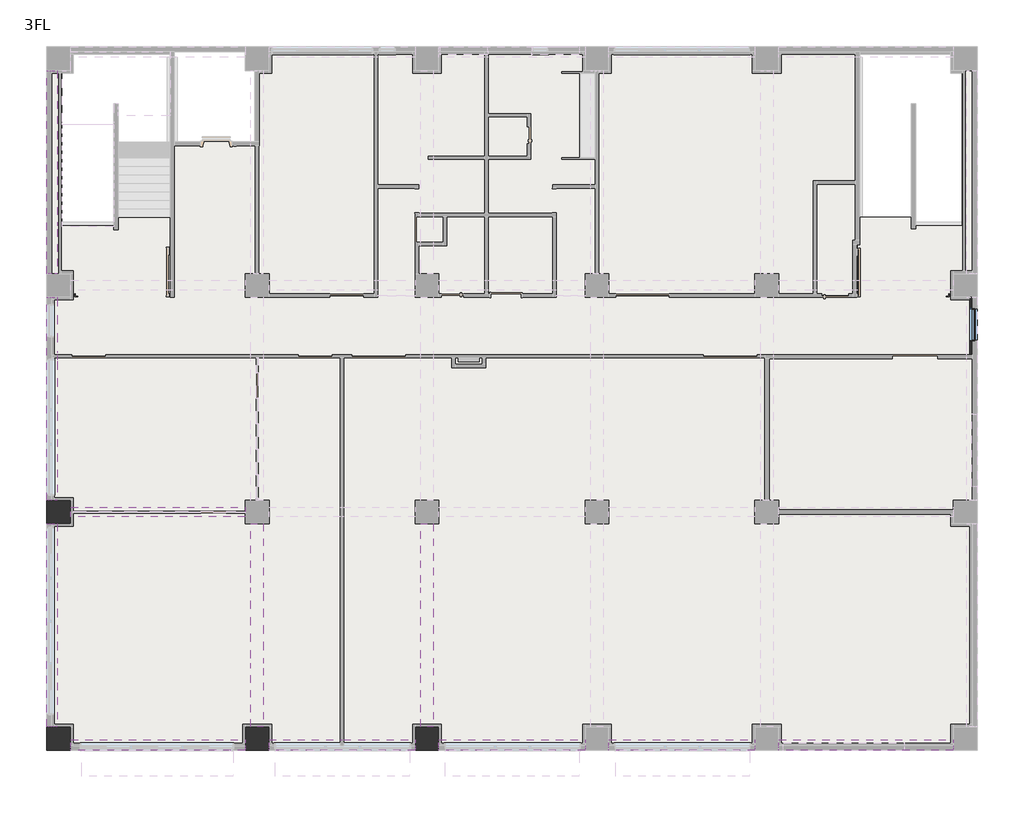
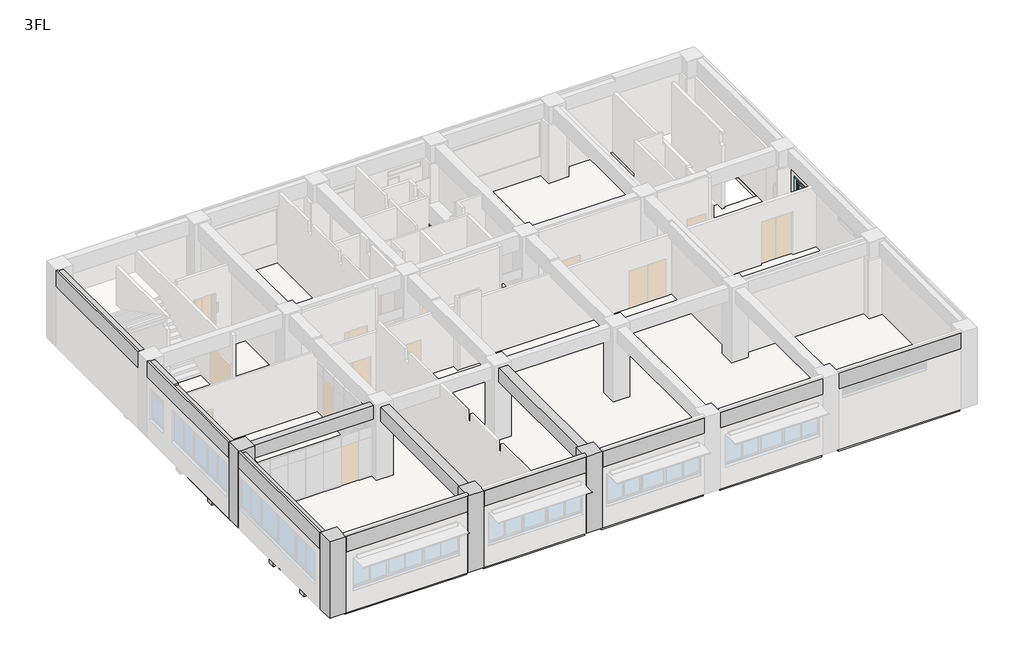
# One storey, part 4 of 6: 16 beams, 4 columns, 4 slabs, 1 wall, 1 window.
"""IFC4 building model written with IfcOpenShell, lengths in millimetres."""

from ifc_helpers import new_model, si_unit, frame, origin, place, context, project, spatial, polyline, outline, extrude, faceted_brep, transform, mapped, element, save
from components import aw6a_3e550bbd

model = new_model("IFC4")

# Units and contexts
model_context = context("Model", 3, world=origin())
ifc_project = project(units=[si_unit("LENGTHUNIT", "METRE", prefix="MILLI")], contexts=[model_context])

# Site, building, storey
site = spatial("IfcSite", under=ifc_project)
building = spatial("IfcBuilding", under=site)
storey = spatial("IfcBuildingStorey", under=building, Name="3FL", Elevation=8200.0)

# Beams
placement = place(None, origin())
element("IfcBeam", 1, ObjectType="営_RC梁 : 2-RG1 350*850", at=placement, inside=storey, context=model_context, shape_type="Brep", body=[
    faceted_brep([(6580.0, -420.0, 11350.0), (6580.0, -420.0, 12200.0), (420.0, -420.0, 12200.0), (420.0, -420.0, 11350.0), (6580.0, -50.0, 11350.0), (6580.0, -250.0, 11350.0), (420.0, -250.0, 11350.0), (420.0, -50.0, 11350.0), (420.0, -50.0, 12050.0), (6580.0, -50.0, 12050.0), (6580.0, -325.0, 12200.0), (420.0, -325.0, 12200.0), (6580.0, -325.0, 12050.0), (420.0, -325.0, 12050.0)], [[[0, 1, 2, 3]], [[4, 5, 0, 3, 6, 7]], [[4, 7, 8, 9]], [[2, 1, 10, 11]], [[1, 0, 5, 4, 9, 12, 10]], [[3, 2, 11, 13, 8, 7, 6]], [[13, 12, 9, 8]], [[12, 13, 11, 10]]]),
])
element("IfcBeam", 2, ObjectType="営_RC梁 : 2-RG1 350*850", at=placement, inside=storey, context=model_context, shape_type="Brep", body=[
    faceted_brep([(7420.0, -420.0, 12200.0), (7420.0, -420.0, 11350.0), (12580.0, -420.0, 11350.0), (12580.0, -420.0, 12200.0), (7420.0, -250.0, 11350.0), (7420.0, -50.0, 11350.0), (9940.0, -50.0, 11350.0), (10060.0, -50.0, 11350.0), (12580.0, -50.0, 11350.0), (12580.0, -250.0, 11350.0), (7420.0, -50.0, 12050.0), (9940.0, -50.0, 12050.0), (10060.0, -50.0, 12050.0), (12580.0, -50.0, 12050.0), (12580.0, -325.0, 12200.0), (7420.0, -325.0, 12200.0), (7420.0, -325.0, 12050.0), (12580.0, -325.0, 12050.0)], [[[0, 1, 2, 3]], [[1, 4, 5, 6, 7, 8, 9, 2]], [[8, 7, 6, 5, 10, 11, 12, 13]], [[0, 3, 14, 15]], [[1, 0, 15, 16, 10, 5, 4]], [[3, 2, 9, 8, 13, 17, 14]], [[16, 17, 13, 12, 11, 10]], [[17, 16, 15, 14]]]),
])
element("IfcBeam", 3, ObjectType="営_RC梁 : 2-RG1 350*850", at=placement, inside=storey, context=model_context, shape_type="Brep", body=[
    faceted_brep([(13420.0, -420.0, 12200.0), (13420.0, -420.0, 11350.0), (18580.0, -420.0, 11350.0), (18580.0, -420.0, 12200.0), (13420.0, -250.0, 11350.0), (13420.0, -50.0, 11350.0), (18580.0, -50.0, 11350.0), (18580.0, -250.0, 11350.0), (13420.0, -50.0, 12050.0), (18580.0, -50.0, 12050.0), (18580.0, -325.0, 12200.0), (13420.0, -325.0, 12200.0), (13420.0, -325.0, 12050.0), (18580.0, -325.0, 12050.0)], [[[0, 1, 2, 3]], [[1, 4, 5, 6, 7, 2]], [[6, 5, 8, 9]], [[0, 3, 10, 11]], [[1, 0, 11, 12, 8, 5, 4]], [[3, 2, 7, 6, 9, 13, 10]], [[12, 13, 9, 8]], [[13, 12, 11, 10]]]),
])
element("IfcBeam", 4, ObjectType="営_RC梁 : 2-RG1 350*850", at=placement, inside=storey, context=model_context, shape_type="Brep", body=[
    faceted_brep([(19420.0, -420.0, 12200.0), (19420.0, -420.0, 11350.0), (24580.0, -420.0, 11350.0), (24580.0, -420.0, 12200.0), (19420.0, -250.0, 11350.0), (19420.0, -50.0, 11350.0), (24580.0, -50.0, 11350.0), (24580.0, -250.0, 11350.0), (19420.0, -50.0, 12050.0), (24580.0, -50.0, 12050.0), (24580.0, -325.0, 12200.0), (19420.0, -325.0, 12200.0), (19420.0, -325.0, 12050.0), (24580.0, -325.0, 12050.0)], [[[0, 1, 2, 3]], [[1, 4, 5, 6, 7, 2]], [[6, 5, 8, 9]], [[0, 3, 10, 11]], [[1, 0, 11, 12, 8, 5, 4]], [[3, 2, 7, 6, 9, 13, 10]], [[12, 13, 9, 8]], [[13, 12, 11, 10]]]),
])
element("IfcBeam", 5, ObjectType="営_RC梁 : 2-RG1 350*850", at=placement, inside=storey, context=model_context, shape_type="Brep", body=[
    faceted_brep([(25420.0, -420.0, 12200.0), (25420.0, -420.0, 11350.0), (31580.0, -420.0, 11350.0), (31580.0, -420.0, 12200.0), (25420.0, -250.0, 11350.0), (25420.0, -50.0, 11350.0), (31580.0, -50.0, 11350.0), (31580.0, -250.0, 11350.0), (25420.0, -50.0, 12050.0), (31580.0, -50.0, 12050.0), (31580.0, -325.0, 12200.0), (25420.0, -325.0, 12200.0), (25420.0, -325.0, 12050.0), (31580.0, -325.0, 12050.0)], [[[0, 1, 2, 3]], [[1, 4, 5, 6, 7, 2]], [[6, 5, 8, 9]], [[0, 3, 10, 11]], [[1, 0, 11, 12, 8, 5, 4]], [[3, 2, 7, 6, 9, 13, 10]], [[12, 13, 9, 8]], [[13, 12, 11, 10]]]),
])
element("IfcBeam", 6, ObjectType="営_RC梁 : 2-RG11 350*900", at=placement, inside=storey, context=model_context, shape_type="Brep", body=[
    faceted_brep([(-50.0, 420.0, 11300.0), (-50.0, 7580.0, 11300.0), (-50.0, 7580.0, 12050.0), (-50.0, 5505.0, 12050.0), (-50.0, 5155.0, 12050.0), (-50.0, 2835.0, 12050.0), (-50.0, 2485.0, 12050.0), (-50.0, 420.0, 12050.0), (-420.0, 7580.0, 11300.0), (-250.0, 7580.0, 11300.0), (-160.0, 420.0, 11300.0), (-250.0, 420.0, 11300.0), (-420.0, 420.0, 11300.0), (-420.0, 7580.0, 12200.0), (-420.0, 420.0, 12200.0), (-335.0, 420.0, 12200.0), (-335.0, 7580.0, 12200.0), (-335.0, 7580.0, 12050.0), (-335.0, 420.0, 12050.0)], [[[0, 1, 2, 3, 4, 5, 6, 7]], [[8, 9, 1, 0, 10, 11, 12]], [[13, 8, 12, 14]], [[13, 14, 15, 16]], [[1, 9, 8, 13, 16, 17, 2]], [[12, 11, 10, 0, 7, 18, 15, 14]], [[17, 18, 7, 6, 5, 4, 3, 2]], [[18, 17, 16, 15]]]),
])
element("IfcBeam", 7, ObjectType="営_RC梁 : 2-RG11 350*900", at=placement, inside=storey, context=model_context, shape_type="Brep", body=[
    faceted_brep([(-50.0, 8420.0, 11300.0), (-50.0, 13440.0, 11300.0), (-50.0, 13560.0, 11300.0), (-50.0, 15580.0, 11300.0), (-50.0, 15580.0, 12140.0), (-50.0, 13675.0, 12140.0), (-50.0, 13500.0, 12140.0), (-50.0, 13500.0, 12050.0), (-50.0, 13325.0, 12050.0), (-50.0, 10925.0, 12050.0), (-50.0, 10575.0, 12050.0), (-50.0, 8420.0, 12050.0), (-250.0, 8420.0, 11300.0), (-420.0, 8420.0, 11300.0), (-420.0, 15580.0, 11300.0), (-250.0, 15580.0, 11300.0), (-420.0, 8420.0, 12200.0), (-420.0, 15580.0, 12200.0), (-335.0, 8420.0, 12200.0), (-335.0, 13500.0, 12200.0), (-325.0, 13500.0, 12200.0), (-325.0, 15580.0, 12200.0), (-335.0, 8420.0, 12050.0), (-325.0, 15580.0, 12140.0), (-335.0, 13500.0, 12050.0), (-325.0, 13500.0, 12140.0)], [[[0, 1, 2, 3, 4, 5, 6, 7, 8, 9, 10, 11]], [[0, 12, 13, 14, 15, 3, 2, 1]], [[13, 16, 17, 14]], [[17, 16, 18, 19, 20, 21]], [[13, 12, 0, 11, 22, 18, 16]], [[3, 15, 14, 17, 21, 23, 4]], [[7, 24, 22, 11, 10, 9, 8]], [[24, 19, 18, 22]], [[19, 24, 7, 6, 25, 20]], [[23, 25, 6, 5, 4]], [[25, 23, 21, 20]]]),
])
element("IfcBeam", 8, ObjectType="営_RC梁 : 2-RG11 350*900", at=placement, inside=storey, context=model_context, shape_type="Brep", body=[
    faceted_brep([(-50.0, 16420.0, 11300.0), (-50.0, 23580.0, 11300.0), (-50.0, 23580.0, 12140.0), (-50.0, 18225.0, 12140.0), (-50.0, 17975.0, 12140.0), (-50.0, 16420.0, 12140.0), (-250.0, 16420.0, 11300.0), (-420.0, 16420.0, 11300.0), (-420.0, 23580.0, 11300.0), (-250.0, 23580.0, 11300.0), (-420.0, 16420.0, 12200.0), (-420.0, 23580.0, 12200.0), (-325.0, 16420.0, 12200.0), (-325.0, 23580.0, 12200.0), (-325.0, 16420.0, 12140.0), (-325.0, 23580.0, 12140.0)], [[[0, 1, 2, 3, 4, 5]], [[0, 6, 7, 8, 9, 1]], [[7, 10, 11, 8]], [[11, 10, 12, 13]], [[7, 6, 0, 5, 14, 12, 10]], [[1, 9, 8, 11, 13, 15, 2]], [[15, 14, 5, 4, 3, 2]], [[14, 15, 13, 12]]]),
])
element("IfcBeam", 9, ObjectType="営_RC梁 : 2-RG2 350*850", at=placement, inside=storey, context=model_context, shape_type="SweptSolid", body=[
    extrude(outline(polyline([(6580.0, 8175.0), (6580.0, 7825.0), (420.0, 7825.0), (420.0, 8175.0), (6580.0, 8175.0)])), frame((0.0, 0.0, 11350.0), z_axis=(0.0, 0.0, 1.0), x_axis=(1.0, 0.0, 0.0)), (0.0, 0.0, 1.0), 700.0),
])
element("IfcBeam", 10, ObjectType="営_RC梁 : 2-4G12 450*900", at=placement, inside=storey, context=model_context, shape_type="Brep", body=[
    faceted_brep([(7225.0, 420.0, 11300.0), (7225.0, 7580.0, 11300.0), (7225.0, 7580.0, 12050.0), (7225.0, 5505.0, 12050.0), (7225.0, 5155.0, 12050.0), (7225.0, 2835.0, 12050.0), (7225.0, 2485.0, 12050.0), (7225.0, 420.0, 12050.0), (6775.0, 420.0, 11300.0), (6775.0, 7580.0, 11300.0), (6775.0, 420.0, 12050.0), (6775.0, 2485.0, 12050.0), (6775.0, 2835.0, 12050.0), (6775.0, 5155.0, 12050.0), (6775.0, 5505.0, 12050.0), (6775.0, 7580.0, 12050.0)], [[[0, 1, 2, 3, 4, 5, 6, 7]], [[0, 8, 9, 1]], [[9, 8, 10, 11, 12, 13, 14, 15]], [[8, 0, 7, 10]], [[1, 9, 15, 2]], [[7, 6, 5, 4, 3, 2, 15, 14, 13, 12, 11, 10]]]),
])
element("IfcBeam", 11, ObjectType="営_RC梁 : 2-4G12 450*900", at=placement, inside=storey, context=model_context, shape_type="Brep", body=[
    faceted_brep([(13225.0, 420.0, 11300.0), (13225.0, 7580.0, 11300.0), (13225.0, 7580.0, 12050.0), (13225.0, 5505.0, 12050.0), (13225.0, 5155.0, 12050.0), (13225.0, 2835.0, 12050.0), (13225.0, 2485.0, 12050.0), (13225.0, 420.0, 12050.0), (12775.0, 420.0, 11300.0), (12775.0, 7580.0, 11300.0), (12775.0, 420.0, 12050.0), (12775.0, 2485.0, 12050.0), (12775.0, 2835.0, 12050.0), (12775.0, 5155.0, 12050.0), (12775.0, 5505.0, 12050.0), (12775.0, 7580.0, 12050.0)], [[[0, 1, 2, 3, 4, 5, 6, 7]], [[0, 8, 9, 1]], [[9, 8, 10, 11, 12, 13, 14, 15]], [[8, 0, 7, 10]], [[1, 9, 15, 2]], [[7, 6, 5, 4, 3, 2, 15, 14, 13, 12, 11, 10]]]),
])
element("IfcBeam", 12, ObjectType="営_RC梁 : B2 350*750", at=placement, inside=storey, context=model_context, shape_type="SweptSolid", body=[
    extrude(outline(polyline([(7225.0, 5155.0), (7225.0, 5505.0), (12775.0, 5505.0), (12775.0, 5155.0), (7225.0, 5155.0)])), frame((0.0, 0.0, 7350.0), z_axis=(0.0, 0.0, 1.0), x_axis=(1.0, 0.0, 0.0)), (0.0, 0.0, 1.0), 600.0),
])
element("IfcBeam", 13, ObjectType="営_RC梁 : B2 350*750", at=placement, inside=storey, context=model_context, shape_type="SweptSolid", body=[
    extrude(outline(polyline([(7225.0, 2485.0), (7225.0, 2835.0), (12775.0, 2835.0), (12775.0, 2485.0), (7225.0, 2485.0)])), frame((0.0, 0.0, 7350.0), z_axis=(0.0, 0.0, 1.0), x_axis=(1.0, 0.0, 0.0)), (0.0, 0.0, 1.0), 600.0),
])
element("IfcBeam", 14, ObjectType="営_RC梁 : B1 350*750", at=placement, inside=storey, context=model_context, shape_type="SweptSolid", body=[
    extrude(outline(polyline([(6775.0, 5505.0), (6775.0, 5155.0), (-50.0, 5155.0), (-50.0, 5505.0), (6775.0, 5505.0)])), frame((0.0, 0.0, 7350.0), z_axis=(0.0, 0.0, 1.0), x_axis=(1.0, 0.0, 0.0)), (0.0, 0.0, 1.0), 600.0),
])
element("IfcBeam", 15, ObjectType="営_RC梁 : B1 350*750", at=placement, inside=storey, context=model_context, shape_type="SweptSolid", body=[
    extrude(outline(polyline([(6775.0, 2835.0), (6775.0, 2485.0), (-50.0, 2485.0), (-50.0, 2835.0), (6775.0, 2835.0)])), frame((0.0, 0.0, 7350.0), z_axis=(0.0, 0.0, 1.0), x_axis=(1.0, 0.0, 0.0)), (0.0, 0.0, 1.0), 600.0),
])
element("IfcBeam", 16, ObjectType="営_RC梁 : B1 350*750", at=placement, inside=storey, context=model_context, shape_type="SweptSolid", body=[
    extrude(outline(polyline([(-50.0, 10575.0), (-50.0, 10925.0), (6775.0, 10925.0), (6775.0, 10575.0), (-50.0, 10575.0)])), frame((0.0, 0.0, 7350.0), z_axis=(0.0, 0.0, 1.0), x_axis=(1.0, 0.0, 0.0)), (0.0, 0.0, 1.0), 600.0),
])

# Columns
element("IfcColumn", 17, ObjectType="営_RC柱_角 : 800*800", at=placement, inside=storey, context=model_context, shape_type="Brep", body=[
    faceted_brep([(7420.0, 420.0, 8100.0), (7420.0, -250.0, 8100.0), (7420.0, -420.0, 8100.0), (6580.0, -420.0, 8100.0), (6580.0, -250.0, 8100.0), (6580.0, 420.0, 8100.0), (7420.0, 420.0, 12200.0), (7420.0, -325.0, 12200.0), (7420.0, -420.0, 12200.0), (7420.0, -420.0, 11350.0), (7420.0, 420.0, 8180.0), (7420.0, 420.0, 8190.0), (7420.0, 420.0, 12050.0), (7395.0, -420.0, 12200.0), (6605.0, -420.0, 12200.0), (6580.0, -420.0, 12200.0), (6580.0, -420.0, 11350.0), (6580.0, -325.0, 12200.0), (6580.0, 420.0, 12200.0), (6580.0, 420.0, 12050.0), (6580.0, 420.0, 8190.0), (6580.0, 420.0, 8180.0)], [[[0, 1, 2, 3, 4, 5]], [[6, 7, 8, 9, 2, 1, 0, 10, 11, 12]], [[8, 13, 14, 15, 16, 3, 2, 9]], [[15, 17, 18, 19, 20, 21, 5, 4, 3, 16]], [[18, 6, 12, 11, 10, 0, 5, 21, 20, 19]], [[6, 18, 17, 15, 14, 13, 8, 7]]]),
])
element("IfcColumn", 18, ObjectType="営_RC柱_角 : 800*800", at=placement, inside=storey, context=model_context, shape_type="Brep", body=[
    faceted_brep([(13420.0, 420.0, 8100.0), (13420.0, -250.0, 8100.0), (13420.0, -420.0, 8100.0), (12580.0, -420.0, 8100.0), (12580.0, -250.0, 8100.0), (12580.0, 420.0, 8100.0), (13420.0, 420.0, 12200.0), (13420.0, -325.0, 12200.0), (13420.0, -420.0, 12200.0), (13420.0, -420.0, 11350.0), (13420.0, 420.0, 8180.0), (13420.0, 420.0, 8190.0), (13420.0, 420.0, 12050.0), (13395.0, -420.0, 12200.0), (12605.0, -420.0, 12200.0), (12580.0, -420.0, 12200.0), (12580.0, -420.0, 11350.0), (12580.0, -325.0, 12200.0), (12580.0, 420.0, 12200.0), (12580.0, 420.0, 12050.0), (12580.0, 420.0, 8190.0), (12580.0, 420.0, 8180.0)], [[[0, 1, 2, 3, 4, 5]], [[6, 7, 8, 9, 2, 1, 0, 10, 11, 12]], [[8, 13, 14, 15, 16, 3, 2, 9]], [[15, 17, 18, 19, 20, 21, 5, 4, 3, 16]], [[18, 6, 12, 11, 10, 0, 5, 21, 20, 19]], [[6, 18, 17, 15, 14, 13, 8, 7]]]),
])
element("IfcColumn", 19, ObjectType="営_RC柱_角 : 800*800", at=placement, inside=storey, context=model_context, shape_type="Brep", body=[
    faceted_brep([(420.0, 420.0, 8100.0), (420.0, -250.0, 8100.0), (420.0, -420.0, 8100.0), (-420.0, -420.0, 8100.0), (-420.0, 420.0, 8100.0), (-250.0, 420.0, 8100.0), (420.0, 420.0, 12200.0), (420.0, -325.0, 12200.0), (420.0, -420.0, 12200.0), (420.0, -420.0, 11350.0), (420.0, 420.0, 8180.0), (420.0, 420.0, 8190.0), (420.0, 420.0, 12050.0), (370.0, -420.0, 12200.0), (-420.0, -420.0, 12200.0), (-420.0, 370.0, 12200.0), (-420.0, 420.0, 12200.0), (-420.0, 420.0, 11300.0), (-335.0, 420.0, 12200.0)], [[[0, 1, 2, 3, 4, 5]], [[6, 7, 8, 9, 2, 1, 0, 10, 11, 12]], [[8, 13, 14, 3, 2, 9]], [[14, 15, 16, 17, 4, 3]], [[16, 18, 6, 12, 11, 10, 0, 5, 4, 17]], [[6, 18, 16, 15, 14, 13, 8, 7]]]),
])
element("IfcColumn", 20, ObjectType="営_RC柱_角 : 800*800", at=placement, inside=storey, context=model_context, shape_type="Brep", body=[
    faceted_brep([(420.0, 8420.0, 8100.0), (420.0, 7580.0, 8100.0), (-250.0, 7580.0, 8100.0), (-420.0, 7580.0, 8100.0), (-420.0, 8420.0, 8100.0), (-250.0, 8420.0, 8100.0), (420.0, 8420.0, 12200.0), (420.0, 7580.0, 12200.0), (420.0, 7580.0, 12050.0), (420.0, 7580.0, 8190.0), (420.0, 7580.0, 8180.0), (420.0, 8420.0, 8180.0), (420.0, 8420.0, 8190.0), (420.0, 8420.0, 12050.0), (-335.0, 7580.0, 12200.0), (-420.0, 7580.0, 12200.0), (-420.0, 7580.0, 11300.0), (-420.0, 7605.0, 12200.0), (-420.0, 8395.0, 12200.0), (-420.0, 8420.0, 12200.0), (-420.0, 8420.0, 11300.0), (-335.0, 8420.0, 12200.0)], [[[0, 1, 2, 3, 4, 5]], [[6, 7, 8, 9, 10, 1, 0, 11, 12, 13]], [[7, 14, 15, 16, 3, 2, 1, 10, 9, 8]], [[15, 17, 18, 19, 20, 4, 3, 16]], [[19, 21, 6, 13, 12, 11, 0, 5, 4, 20]], [[6, 21, 19, 18, 17, 15, 14, 7]]]),
])

# Slabs
element("IfcSlab", 21, ObjectType="(内床)仕上げ", at=placement, inside=storey, context=model_context, shape_type="SweptSolid", body=[
    extrude(outline(polyline([(-250.0, 13500.0), (25000.0, 13500.0), (25000.0, 8420.0), (24580.0, 8420.0), (24580.0, 7580.0), (25420.0, 7580.0), (25420.0, 8000.0), (31580.0, 8000.0), (31580.0, 7580.0), (32250.0, 7580.0), (32250.0, 420.0), (31580.0, 420.0), (31580.0, -250.0), (25420.0, -250.0), (25420.0, 420.0), (24580.0, 420.0), (24580.0, -250.0), (19420.0, -250.0), (19420.0, 420.0), (18580.0, 420.0), (18580.0, -250.0), (13420.0, -250.0), (13420.0, 420.0), (12580.0, 420.0), (12580.0, -250.0), (7420.0, -250.0), (7420.0, 420.0), (6580.0, 420.0), (6580.0, -250.0), (420.0, -250.0), (420.0, 420.0), (-250.0, 420.0), (-250.0, 7580.0), (420.0, 7580.0), (420.0, 8420.0), (-250.0, 8420.0), (-250.0, 13500.0)]), holes=[polyline([(7420.0, 7580.0), (7420.0, 8420.0), (6580.0, 8420.0), (6580.0, 7580.0), (7420.0, 7580.0)]), polyline([(13420.0, 7580.0), (13420.0, 8420.0), (12580.0, 8420.0), (12580.0, 7580.0), (13420.0, 7580.0)]), polyline([(19420.0, 7580.0), (19420.0, 8420.0), (18580.0, 8420.0), (18580.0, 7580.0), (19420.0, 7580.0)])]), frame((0.0, 0.0, 8180.0), z_axis=(0.0, 0.0, 1.0), x_axis=(1.0, 0.0, 0.0)), (0.0, 0.0, 1.0), 10.0),
    extrude(outline(polyline([(11200.0, 24250.0), (11200.0, 15640.0), (7420.0, 15640.0), (7420.0, 16420.0), (7000.0, 16420.0), (7000.0, 23580.0), (7420.0, 23580.0), (7420.0, 24250.0), (11200.0, 24250.0)])), frame((0.0, 0.0, 8180.0), z_axis=(0.0, 0.0, 1.0), x_axis=(1.0, 0.0, 0.0)), (0.0, 0.0, 1.0), 10.0),
    extrude(outline(polyline([(28200.0, 24250.0), (28200.0, 19635.0), (26700.0, 19635.0), (26700.0, 15640.0), (25420.0, 15640.0), (25420.0, 16420.0), (24580.0, 16420.0), (24580.0, 15640.0), (19420.0, 15640.0), (19420.0, 16420.0), (19000.0, 16420.0), (19000.0, 23580.0), (19420.0, 23580.0), (19420.0, 24250.0), (24580.0, 24250.0), (24580.0, 23580.0), (25420.0, 23580.0), (25420.0, 24250.0), (28200.0, 24250.0)])), frame((0.0, 0.0, 8180.0), z_axis=(0.0, 0.0, 1.0), x_axis=(1.0, 0.0, 0.0)), (0.0, 0.0, 1.0), 10.0),
])
element("IfcSlab", 22, ObjectType="(RC)150", at=placement, inside=storey, context=model_context, shape_type="Brep", body=[
    faceted_brep([(-335.0, 13500.0, 7950.0), (-50.0, 13500.0, 7950.0), (6775.0, 13500.0, 7950.0), (7225.0, 13500.0, 7950.0), (12775.0, 13500.0, 7950.0), (13225.0, 13500.0, 7950.0), (18775.0, 13500.0, 7950.0), (19225.0, 13500.0, 7950.0), (24775.0, 13500.0, 7950.0), (25000.0, 13500.0, 7950.0), (25000.0, 8420.0, 7950.0), (24775.0, 8420.0, 7950.0), (24580.0, 8420.0, 7950.0), (24580.0, 8175.0, 7950.0), (24580.0, 7825.0, 7950.0), (24580.0, 7580.0, 7950.0), (24775.0, 7580.0, 7950.0), (25225.0, 7580.0, 7950.0), (25420.0, 7580.0, 7950.0), (25420.0, 7825.0, 7950.0), (25420.0, 8000.0, 7950.0), (31580.0, 8000.0, 7950.0), (31580.0, 7825.0, 7950.0), (31580.0, 7580.0, 7950.0), (32050.0, 7580.0, 7950.0), (32325.0, 7580.0, 7950.0), (32325.0, 420.0, 7950.0), (32050.0, 420.0, 7950.0), (31580.0, 420.0, 7950.0), (31580.0, -50.0, 7950.0), (31580.0, -325.0, 7950.0), (25420.0, -325.0, 7950.0), (25420.0, -50.0, 7950.0), (25420.0, 420.0, 7950.0), (25225.0, 420.0, 7950.0), (24775.0, 420.0, 7950.0), (24580.0, 420.0, 7950.0), (24580.0, -50.0, 7950.0), (24580.0, -325.0, 7950.0), (19420.0, -325.0, 7950.0), (19420.0, -50.0, 7950.0), (19420.0, 420.0, 7950.0), (19225.0, 420.0, 7950.0), (18775.0, 420.0, 7950.0), (18580.0, 420.0, 7950.0), (18580.0, -50.0, 7950.0), (18580.0, -325.0, 7950.0), (13420.0, -325.0, 7950.0), (13420.0, -50.0, 7950.0), (13420.0, 420.0, 7950.0), (13225.0, 420.0, 7950.0), (12775.0, 420.0, 7950.0), (12580.0, 420.0, 7950.0), (12580.0, -50.0, 7950.0), (12580.0, -325.0, 7950.0), (7420.0, -325.0, 7950.0), (7420.0, -50.0, 7950.0), (7420.0, 420.0, 7950.0), (7225.0, 420.0, 7950.0), (6775.0, 420.0, 7950.0), (6580.0, 420.0, 7950.0), (6580.0, -50.0, 7950.0), (6580.0, -325.0, 7950.0), (420.0, -325.0, 7950.0), (420.0, -50.0, 7950.0), (420.0, 420.0, 7950.0), (-50.0, 420.0, 7950.0), (-335.0, 420.0, 7950.0), (-335.0, 7580.0, 7950.0), (-50.0, 7580.0, 7950.0), (420.0, 7580.0, 7950.0), (420.0, 7825.0, 7950.0), (420.0, 8175.0, 7950.0), (420.0, 8420.0, 7950.0), (-50.0, 8420.0, 7950.0), (-335.0, 8420.0, 7950.0), (7420.0, 7580.0, 7950.0), (7420.0, 7825.0, 7950.0), (7420.0, 8175.0, 7950.0), (7420.0, 8420.0, 7950.0), (7225.0, 8420.0, 7950.0), (6775.0, 8420.0, 7950.0), (6580.0, 8420.0, 7950.0), (6580.0, 8175.0, 7950.0), (6580.0, 7825.0, 7950.0), (6580.0, 7580.0, 7950.0), (6775.0, 7580.0, 7950.0), (7225.0, 7580.0, 7950.0), (13420.0, 7580.0, 7950.0), (13420.0, 7825.0, 7950.0), (13420.0, 8175.0, 7950.0), (13420.0, 8420.0, 7950.0), (13225.0, 8420.0, 7950.0), (12775.0, 8420.0, 7950.0), (12580.0, 8420.0, 7950.0), (12580.0, 8175.0, 7950.0), (12580.0, 7825.0, 7950.0), (12580.0, 7580.0, 7950.0), (12775.0, 7580.0, 7950.0), (13225.0, 7580.0, 7950.0), (19420.0, 7580.0, 7950.0), (19420.0, 7825.0, 7950.0), (19420.0, 8175.0, 7950.0), (19420.0, 8420.0, 7950.0), (19225.0, 8420.0, 7950.0), (18775.0, 8420.0, 7950.0), (18580.0, 8420.0, 7950.0), (18580.0, 8175.0, 7950.0), (18580.0, 7825.0, 7950.0), (18580.0, 7580.0, 7950.0), (18775.0, 7580.0, 7950.0), (19225.0, 7580.0, 7950.0), (25000.0, 13500.0, 8100.0), (-325.0, 13500.0, 8100.0), (-335.0, 13500.0, 8100.0), (-335.0, 8420.0, 8100.0), (-250.0, 8420.0, 8100.0), (420.0, 8420.0, 8100.0), (420.0, 7580.0, 8100.0), (-250.0, 7580.0, 8100.0), (-335.0, 7580.0, 8100.0), (-335.0, 420.0, 8100.0), (-250.0, 420.0, 8100.0), (420.0, 420.0, 8100.0), (420.0, -250.0, 8100.0), (420.0, -325.0, 8100.0), (6580.0, -325.0, 8100.0), (6580.0, -250.0, 8100.0), (6580.0, 420.0, 8100.0), (7420.0, 420.0, 8100.0), (7420.0, -250.0, 8100.0), (7420.0, -325.0, 8100.0), (12580.0, -325.0, 8100.0), (12580.0, -250.0, 8100.0), (12580.0, 420.0, 8100.0), (13420.0, 420.0, 8100.0), (13420.0, -250.0, 8100.0), (13420.0, -325.0, 8100.0), (18580.0, -325.0, 8100.0), (18580.0, -250.0, 8100.0), (18580.0, 420.0, 8100.0), (19420.0, 420.0, 8100.0), (19420.0, -250.0, 8100.0), (19420.0, -325.0, 8100.0), (24580.0, -325.0, 8100.0), (24580.0, -250.0, 8100.0), (24580.0, 420.0, 8100.0), (25420.0, 420.0, 8100.0), (25420.0, -250.0, 8100.0), (25420.0, -325.0, 8100.0), (31580.0, -325.0, 8100.0), (31580.0, -250.0, 8100.0), (31580.0, 420.0, 8100.0), (32325.0, 420.0, 8100.0), (32325.0, 7580.0, 8100.0), (31580.0, 7580.0, 8100.0), (31580.0, 8000.0, 8100.0), (25420.0, 8000.0, 8100.0), (25420.0, 7580.0, 8100.0), (24580.0, 7580.0, 8100.0), (24580.0, 8420.0, 8100.0), (25000.0, 8420.0, 8100.0), (7420.0, 8420.0, 8100.0), (7420.0, 7580.0, 8100.0), (6580.0, 7580.0, 8100.0), (6580.0, 8420.0, 8100.0), (13420.0, 8420.0, 8100.0), (13420.0, 7580.0, 8100.0), (12580.0, 7580.0, 8100.0), (12580.0, 8420.0, 8100.0), (19420.0, 8420.0, 8100.0), (19420.0, 7580.0, 8100.0), (18580.0, 7580.0, 8100.0), (18580.0, 8420.0, 8100.0), (25000.0, 13500.0, 8040.0), (25420.0, 8000.0, 8040.0), (25000.0, 8420.0, 8040.0), (31580.0, 8000.0, 8040.0)], [[[0, 1, 2, 3, 4, 5, 6, 7, 8, 9, 10, 11, 12, 13, 14, 15, 16, 17, 18, 19, 20, 21, 22, 23, 24, 25, 26, 27, 28, 29, 30, 31, 32, 33, 34, 35, 36, 37, 38, 39, 40, 41, 42, 43, 44, 45, 46, 47, 48, 49, 50, 51, 52, 53, 54, 55, 56, 57, 58, 59, 60, 61, 62, 63, 64, 65, 66, 67, 68, 69, 70, 71, 72, 73, 74, 75], [76, 77, 78, 79, 80, 81, 82, 83, 84, 85, 86, 87], [88, 89, 90, 91, 92, 93, 94, 95, 96, 97, 98, 99], [100, 101, 102, 103, 104, 105, 106, 107, 108, 109, 110, 111]], [[112, 113, 114, 115, 116, 117, 118, 119, 120, 121, 122, 123, 124, 125, 126, 127, 128, 129, 130, 131, 132, 133, 134, 135, 136, 137, 138, 139, 140, 141, 142, 143, 144, 145, 146, 147, 148, 149, 150, 151, 152, 153, 154, 155, 156, 157, 158, 159, 160, 161], [162, 163, 164, 165], [166, 167, 168, 169], [170, 171, 172, 173]], [[62, 126, 125, 63]], [[131, 55, 54, 132]], [[137, 47, 46, 138]], [[143, 39, 38, 144]], [[149, 31, 30, 150]], [[67, 121, 120, 68]], [[114, 0, 75, 115]], [[9, 8, 7, 6, 5, 4, 3, 2, 1, 0, 114, 113, 112, 174]], [[153, 26, 25, 154]], [[129, 57, 56, 55, 131, 130]], [[60, 128, 127, 126, 62, 61]], [[128, 60, 59, 58, 57, 129]], [[135, 49, 48, 47, 137, 136]], [[52, 134, 133, 132, 54, 53]], [[134, 52, 51, 50, 49, 135]], [[141, 41, 40, 39, 143, 142]], [[44, 140, 139, 138, 46, 45]], [[140, 44, 43, 42, 41, 141]], [[147, 33, 32, 31, 149, 148]], [[36, 146, 145, 144, 38, 37]], [[146, 36, 35, 34, 33, 147]], [[28, 152, 151, 150, 30, 29]], [[152, 28, 27, 26, 153]], [[123, 65, 64, 63, 125, 124]], [[65, 123, 122, 121, 67, 66]], [[76, 163, 162, 79, 78, 77]], [[163, 76, 87, 86, 85, 164]], [[164, 85, 84, 83, 82, 165]], [[165, 82, 81, 80, 79, 162]], [[88, 167, 166, 91, 90, 89]], [[167, 88, 99, 98, 97, 168]], [[168, 97, 96, 95, 94, 169]], [[169, 94, 93, 92, 91, 166]], [[100, 171, 170, 103, 102, 101]], [[171, 100, 111, 110, 109, 172]], [[172, 109, 108, 107, 106, 173]], [[173, 106, 105, 104, 103, 170]], [[18, 158, 157, 175, 20, 19]], [[158, 18, 17, 16, 15, 159]], [[159, 15, 14, 13, 12, 160]], [[160, 12, 11, 10, 176, 161]], [[23, 155, 154, 25, 24]], [[155, 23, 22, 21, 177, 156]], [[70, 118, 117, 73, 72, 71]], [[118, 70, 69, 68, 120, 119]], [[73, 117, 116, 115, 75, 74]], [[9, 174, 112, 161, 176, 10]], [[20, 175, 157, 156, 177, 21]]]),
])
element("IfcSlab", 23, ObjectType="(RC)150", at=placement, inside=storey, context=model_context, shape_type="Brep", body=[
    faceted_brep([(7420.0, 15580.0, 8040.0), (7420.0, 15640.0, 8040.0), (11200.0, 15640.0, 8040.0), (11200.0, 15825.0, 8040.0), (11200.0, 16175.0, 8040.0), (11200.0, 18495.0, 8040.0), (11200.0, 18845.0, 8040.0), (11200.0, 21165.0, 8040.0), (11200.0, 21515.0, 8040.0), (11200.0, 24050.0, 8040.0), (11200.0, 24335.0, 8040.0), (12580.0, 24335.0, 8040.0), (12580.0, 24050.0, 8040.0), (12580.0, 23580.0, 8040.0), (12775.0, 23580.0, 8040.0), (13225.0, 23580.0, 8040.0), (13420.0, 23580.0, 8040.0), (13420.0, 24050.0, 8040.0), (13420.0, 24335.0, 8040.0), (18580.0, 24335.0, 8040.0), (18580.0, 24050.0, 8040.0), (18580.0, 23580.0, 8040.0), (18775.0, 23580.0, 8040.0), (19000.0, 23580.0, 8040.0), (19000.0, 16420.0, 8040.0), (18775.0, 16420.0, 8040.0), (18580.0, 16420.0, 8040.0), (18580.0, 16175.0, 8040.0), (18580.0, 15825.0, 8040.0), (18580.0, 15580.0, 8040.0), (18775.0, 15580.0, 8040.0), (19225.0, 15580.0, 8040.0), (19420.0, 15580.0, 8040.0), (19420.0, 15640.0, 8040.0), (24580.0, 15640.0, 8040.0), (24580.0, 15580.0, 8040.0), (24775.0, 15580.0, 8040.0), (25225.0, 15580.0, 8040.0), (25420.0, 15580.0, 8040.0), (25420.0, 15640.0, 8040.0), (28200.0, 15640.0, 8040.0), (28200.0, 15825.0, 8040.0), (28200.0, 16175.0, 8040.0), (28200.0, 18400.0, 8040.0), (28374.0, 18400.0, 8040.0), (30105.0, 18400.0, 8040.0), (30105.0, 18225.0, 8040.0), (30105.0, 18005.0, 8040.0), (30255.0, 18005.0, 8040.0), (30255.0, 18100.0, 8040.0), (31900.0, 18100.0, 8040.0), (31900.0, 18225.0, 8040.0), (31900.0, 23580.0, 8040.0), (32050.0, 23580.0, 8040.0), (32250.0, 23580.0, 8040.0), (32250.0, 16420.0, 8040.0), (32050.0, 16420.0, 8040.0), (31580.0, 16420.0, 8040.0), (31580.0, 16175.0, 8040.0), (31580.0, 15825.0, 8040.0), (31580.0, 15580.0, 8040.0), (32050.0, 15580.0, 8040.0), (32250.0, 15580.0, 8040.0), (32250.0, 8420.0, 8040.0), (32050.0, 8420.0, 8040.0), (31580.0, 8420.0, 8040.0), (31580.0, 8175.0, 8040.0), (31580.0, 8000.0, 8040.0), (31580.0, 7925.0, 8040.0), (25420.0, 7925.0, 8040.0), (25420.0, 8000.0, 8040.0), (25420.0, 8175.0, 8040.0), (25420.0, 8420.0, 8040.0), (25225.0, 8420.0, 8040.0), (25000.0, 8420.0, 8040.0), (25000.0, 13500.0, 8040.0), (24775.0, 13500.0, 8040.0), (19225.0, 13500.0, 8040.0), (18775.0, 13500.0, 8040.0), (13225.0, 13500.0, 8040.0), (12775.0, 13500.0, 8040.0), (7225.0, 13500.0, 8040.0), (6775.0, 13500.0, 8040.0), (-50.0, 13500.0, 8040.0), (-250.0, 13500.0, 8040.0), (-250.0, 15580.0, 8040.0), (-50.0, 15580.0, 8040.0), (420.0, 15580.0, 8040.0), (420.0, 15825.0, 8040.0), (420.0, 16175.0, 8040.0), (420.0, 16420.0, 8040.0), (-50.0, 16420.0, 8040.0), (-250.0, 16420.0, 8040.0), (-250.0, 23580.0, 8040.0), (-50.0, 23580.0, 8040.0), (100.0, 23580.0, 8040.0), (100.0, 18225.0, 8040.0), (100.0, 18100.0, 8040.0), (1945.0, 18100.0, 8040.0), (1945.0, 18005.0, 8040.0), (2095.0, 18005.0, 8040.0), (2095.0, 18225.0, 8040.0), (2095.0, 18400.0, 8040.0), (3825.0, 18400.0, 8040.0), (4000.0, 18400.0, 8040.0), (4000.0, 21075.0, 8040.0), (4175.0, 21075.0, 8040.0), (4306.3, 21075.0, 8040.0), (6775.0, 21075.0, 8040.0), (7000.0, 21075.0, 8040.0), (7000.0, 16420.0, 8040.0), (6775.0, 16420.0, 8040.0), (6580.0, 16420.0, 8040.0), (6580.0, 16175.0, 8040.0), (6580.0, 15825.0, 8040.0), (6580.0, 15580.0, 8040.0), (6775.0, 15580.0, 8040.0), (7225.0, 15580.0, 8040.0), (13420.0, 15580.0, 8040.0), (13420.0, 15825.0, 8040.0), (13420.0, 16175.0, 8040.0), (13420.0, 16420.0, 8040.0), (13225.0, 16420.0, 8040.0), (12775.0, 16420.0, 8040.0), (12580.0, 16420.0, 8040.0), (12580.0, 16175.0, 8040.0), (12580.0, 15825.0, 8040.0), (12580.0, 15580.0, 8040.0), (12775.0, 15580.0, 8040.0), (13225.0, 15580.0, 8040.0), (-325.0, 13500.0, 8190.0), (25000.0, 13500.0, 8190.0), (25000.0, 8420.0, 8190.0), (25420.0, 8420.0, 8190.0), (25420.0, 7925.0, 8190.0), (31580.0, 7925.0, 8190.0), (31580.0, 8420.0, 8190.0), (32325.0, 8420.0, 8190.0), (32325.0, 15580.0, 8190.0), (31580.0, 15580.0, 8190.0), (31580.0, 16420.0, 8190.0), (32325.0, 16420.0, 8190.0), (32325.0, 16669.8819845, 8190.0), (32325.0, 23580.0, 8190.0), (31900.0, 23580.0, 8190.0), (31900.0, 18100.0, 8190.0), (30255.0, 18100.0, 8190.0), (30255.0, 18005.0, 8190.0), (30105.0, 18005.0, 8190.0), (30105.0, 18400.0, 8190.0), (28200.0, 18400.0, 8190.0), (28200.0, 15640.0, 8190.0), (25420.0, 15640.0, 8190.0), (25420.0, 15580.0, 8190.0), (24580.0, 15580.0, 8190.0), (24580.0, 15640.0, 8190.0), (19420.0, 15640.0, 8190.0), (19420.0, 15580.0, 8190.0), (18580.0, 15580.0, 8190.0), (18580.0, 16420.0, 8190.0), (19000.0, 16420.0, 8190.0), (19000.0, 23580.0, 8190.0), (18580.0, 23580.0, 8190.0), (18580.0, 24335.0, 8190.0), (13420.0, 24335.0, 8190.0), (13420.0, 23580.0, 8190.0), (12580.0, 23580.0, 8190.0), (12580.0, 24335.0, 8190.0), (11200.0, 24335.0, 8190.0), (11200.0, 15640.0, 8190.0), (7420.0, 15640.0, 8190.0), (7420.0, 15580.0, 8190.0), (6580.0, 15580.0, 8190.0), (6580.0, 16420.0, 8190.0), (7000.0, 16420.0, 8190.0), (7000.0, 21075.0, 8190.0), (4000.0, 21075.0, 8190.0), (4000.0, 18400.0, 8190.0), (2095.0, 18400.0, 8190.0), (2095.0, 18005.0, 8190.0), (1945.0, 18005.0, 8190.0), (1945.0, 18100.0, 8190.0), (100.0, 18100.0, 8190.0), (100.0, 23580.0, 8190.0), (-325.0, 23580.0, 8190.0), (-325.0, 16420.0, 8190.0), (420.0, 16420.0, 8190.0), (420.0, 15580.0, 8190.0), (-325.0, 15580.0, 8190.0), (13420.0, 16420.0, 8190.0), (13420.0, 15580.0, 8190.0), (12580.0, 15580.0, 8190.0), (12580.0, 16420.0, 8190.0), (32325.0, 16669.8819845, 8100.0), (32325.0, 16420.0, 8100.0), (32325.0, 8420.0, 8100.0), (32325.0, 15580.0, 8100.0), (-325.0, 13500.0, 8100.0), (-250.0, 13500.0, 8100.0), (11200.0, 24335.0, 8100.0), (12580.0, 24335.0, 8100.0), (18580.0, 24335.0, 8100.0), (13420.0, 24335.0, 8100.0), (32325.0, 23580.0, 8100.0), (-325.0, 23580.0, 8100.0), (-325.0, 16420.0, 8100.0), (-325.0, 15580.0, 8100.0), (7420.0, 15580.0, 8100.0), (7420.0, 15640.0, 8100.0), (6580.0, 15580.0, 8100.0), (6580.0, 16420.0, 8100.0), (7000.0, 16420.0, 8100.0), (13420.0, 15580.0, 8100.0), (13420.0, 16420.0, 8100.0), (12580.0, 15580.0, 8100.0), (12580.0, 16420.0, 8100.0), (19420.0, 15580.0, 8100.0), (19420.0, 15640.0, 8100.0), (18580.0, 15580.0, 8100.0), (18580.0, 16420.0, 8100.0), (19000.0, 16420.0, 8100.0), (25420.0, 15580.0, 8100.0), (25420.0, 15640.0, 8100.0), (24580.0, 15580.0, 8100.0), (24580.0, 15640.0, 8100.0), (32250.0, 15580.0, 8100.0), (31580.0, 15580.0, 8100.0), (31580.0, 16420.0, 8100.0), (32250.0, 16420.0, 8100.0), (420.0, 15580.0, 8100.0), (420.0, 16420.0, 8100.0), (-250.0, 15580.0, 8100.0), (-250.0, 16420.0, 8100.0), (13420.0, 23580.0, 8100.0), (12580.0, 23580.0, 8100.0), (19000.0, 23580.0, 8100.0), (18580.0, 23580.0, 8100.0), (-250.0, 23580.0, 8100.0), (32250.0, 8420.0, 8100.0), (32250.0, 23580.0, 8100.0), (100.0, 18100.0, 8100.0), (1945.0, 18100.0, 8100.0), (1945.0, 18005.0, 8100.0), (2095.0, 18005.0, 8100.0), (4000.0, 18400.0, 8100.0), (4000.0, 21075.0, 8100.0), (28200.0, 15640.0, 8100.0), (28200.0, 18400.0, 8100.0), (30105.0, 18005.0, 8100.0), (30255.0, 18005.0, 8100.0), (30255.0, 18100.0, 8100.0), (31900.0, 18100.0, 8100.0), (7000.0, 21075.0, 8100.0), (11200.0, 15640.0, 8100.0), (25420.0, 8420.0, 8100.0), (31580.0, 8420.0, 8100.0)], [[[0, 1, 2, 3, 4, 5, 6, 7, 8, 9, 10, 11, 12, 13, 14, 15, 16, 17, 18, 19, 20, 21, 22, 23, 24, 25, 26, 27, 28, 29, 30, 31, 32, 33, 34, 35, 36, 37, 38, 39, 40, 41, 42, 43, 44, 45, 46, 47, 48, 49, 50, 51, 52, 53, 54, 55, 56, 57, 58, 59, 60, 61, 62, 63, 64, 65, 66, 67, 68, 69, 70, 71, 72, 73, 74, 75, 76, 77, 78, 79, 80, 81, 82, 83, 84, 85, 86, 87, 88, 89, 90, 91, 92, 93, 94, 95, 96, 97, 98, 99, 100, 101, 102, 103, 104, 105, 106, 107, 108, 109, 110, 111, 112, 113, 114, 115, 116, 117], [118, 119, 120, 121, 122, 123, 124, 125, 126, 127, 128, 129]], [[130, 131, 132, 133, 134, 135, 136, 137, 138, 139, 140, 141, 142, 143, 144, 145, 146, 147, 148, 149, 150, 151, 152, 153, 154, 155, 156, 157, 158, 159, 160, 161, 162, 163, 164, 165, 166, 167, 168, 169, 170, 171, 172, 173, 174, 175, 176, 177, 178, 179, 180, 181, 182, 183, 184, 185, 186, 187, 188], [189, 190, 191, 192]], [[193, 142, 141, 194]], [[137, 195, 196, 138]], [[131, 130, 197, 198, 84, 83, 82, 81, 80, 79, 78, 77, 76, 75]], [[11, 10, 199, 168, 167, 200]], [[163, 201, 19, 18, 202, 164]], [[143, 142, 193, 203]], [[184, 204, 205, 185]], [[197, 130, 188, 206]], [[1, 0, 207, 171, 170, 208]], [[0, 117, 116, 115, 209, 172, 171, 207]], [[115, 114, 113, 112, 210, 173, 172, 209]], [[112, 111, 110, 211, 174, 173, 210]], [[121, 120, 119, 118, 212, 190, 189, 213]], [[118, 129, 128, 127, 214, 191, 190, 212]], [[127, 126, 125, 124, 215, 192, 191, 214]], [[124, 123, 122, 121, 213, 189, 192, 215]], [[33, 32, 216, 157, 156, 217]], [[32, 31, 30, 29, 218, 158, 157, 216]], [[29, 28, 27, 26, 219, 159, 158, 218]], [[26, 25, 24, 220, 160, 159, 219]], [[39, 38, 221, 153, 152, 222]], [[38, 37, 36, 35, 223, 154, 153, 221]], [[35, 34, 224, 155, 154, 223]], [[225, 62, 61, 60, 226, 139, 138, 196]], [[60, 59, 58, 57, 227, 140, 139, 226]], [[55, 228, 194, 141, 140, 227, 57, 56]], [[90, 89, 88, 87, 229, 187, 186, 230]], [[85, 231, 206, 188, 187, 229, 87, 86]], [[232, 92, 91, 90, 230, 186, 185, 205]], [[18, 17, 16, 233, 165, 164, 202]], [[16, 15, 14, 13, 234, 166, 165, 233]], [[13, 12, 11, 200, 167, 166, 234]], [[162, 161, 235, 23, 22, 21, 236]], [[162, 236, 21, 20, 19, 201, 163]], [[231, 85, 84, 198]], [[92, 232, 237, 93]], [[62, 225, 238, 63]], [[228, 55, 54, 239]], [[69, 68, 135, 134]], [[131, 75, 74, 132]], [[203, 193, 194, 228, 239]], [[238, 225, 196, 195]], [[198, 197, 206, 231]], [[237, 232, 205, 204]], [[184, 183, 95, 94, 93, 237, 204]], [[97, 96, 95, 183, 182, 240]], [[98, 97, 240, 182, 181, 241]], [[99, 98, 241, 181, 180, 242]], [[100, 99, 242, 180, 179, 243]], [[102, 101, 100, 243, 179, 178]], [[104, 103, 102, 178, 177, 244]], [[105, 104, 244, 177, 176, 245]], [[43, 42, 41, 40, 246, 151, 150, 247]], [[45, 44, 43, 247, 150, 149]], [[47, 46, 45, 149, 148, 248]], [[48, 47, 248, 148, 147, 249]], [[49, 48, 249, 147, 146, 250]], [[50, 49, 250, 146, 145, 251]], [[52, 51, 50, 251, 145, 144]], [[144, 143, 203, 239, 54, 53, 52]], [[24, 23, 235, 161, 160, 220]], [[40, 39, 222, 152, 151, 246]], [[34, 33, 217, 156, 155, 224]], [[109, 108, 107, 106, 105, 245, 176, 175, 252]], [[110, 109, 252, 175, 174, 211]], [[2, 1, 208, 170, 169, 253]], [[10, 9, 8, 7, 6, 5, 4, 3, 2, 253, 169, 168, 199]], [[72, 71, 70, 69, 134, 133, 254]], [[74, 73, 72, 254, 133, 132]], [[68, 67, 66, 65, 255, 136, 135]], [[65, 64, 63, 238, 195, 137, 136, 255]]]),
])
element("IfcSlab", 24, ObjectType="(RC)150", at=placement, inside=storey, context=model_context, shape_type="Brep", body=[
    faceted_brep([(11200.0, 24335.0, 7950.0), (11200.0, 24050.0, 7950.0), (11200.0, 21515.0, 7950.0), (11200.0, 21165.0, 7950.0), (11200.0, 18845.0, 7950.0), (11200.0, 18495.0, 7950.0), (11200.0, 16175.0, 7950.0), (11200.0, 15825.0, 7950.0), (11200.0, 15640.0, 7950.0), (7420.0, 15640.0, 7950.0), (7420.0, 15825.0, 7950.0), (7420.0, 16175.0, 7950.0), (7420.0, 16420.0, 7950.0), (7225.0, 16420.0, 7950.0), (7000.0, 16420.0, 7950.0), (7000.0, 23580.0, 7950.0), (7225.0, 23580.0, 7950.0), (7420.0, 23580.0, 7950.0), (7420.0, 24050.0, 7950.0), (7420.0, 24335.0, 7950.0), (11200.0, 15640.0, 8100.0), (11200.0, 24335.0, 8100.0), (7420.0, 24335.0, 8100.0), (7420.0, 23580.0, 8100.0), (7000.0, 23580.0, 8100.0), (7000.0, 21075.0, 8100.0), (7000.0, 16420.0, 8100.0), (7420.0, 16420.0, 8100.0), (7420.0, 15640.0, 8100.0), (11200.0, 24335.0, 8040.0), (11200.0, 15640.0, 8040.0), (7420.0, 15640.0, 8040.0), (7000.0, 16420.0, 8040.0)], [[[0, 1, 2, 3, 4, 5, 6, 7, 8, 9, 10, 11, 12, 13, 14, 15, 16, 17, 18, 19]], [[20, 21, 22, 23, 24, 25, 26, 27, 28]], [[21, 29, 0, 19, 22]], [[8, 7, 6, 5, 4, 3, 2, 1, 0, 29, 21, 20, 30]], [[8, 30, 20, 28, 31, 9]], [[14, 32, 26, 25, 24, 15]], [[27, 12, 11, 10, 9, 31, 28]], [[12, 27, 26, 32, 14, 13]], [[17, 23, 22, 19, 18]], [[23, 17, 16, 15, 24]]]),
    faceted_brep([(28200.0, 24335.0, 7950.0), (28200.0, 24050.0, 7950.0), (28200.0, 16175.0, 7950.0), (28200.0, 15825.0, 7950.0), (28200.0, 15640.0, 7950.0), (25420.0, 15640.0, 7950.0), (25420.0, 15825.0, 7950.0), (25420.0, 16175.0, 7950.0), (25420.0, 16420.0, 7950.0), (25225.0, 16420.0, 7950.0), (24775.0, 16420.0, 7950.0), (24580.0, 16420.0, 7950.0), (24580.0, 16175.0, 7950.0), (24580.0, 15825.0, 7950.0), (24580.0, 15640.0, 7950.0), (19420.0, 15640.0, 7950.0), (19420.0, 15825.0, 7950.0), (19420.0, 16175.0, 7950.0), (19420.0, 16420.0, 7950.0), (19225.0, 16420.0, 7950.0), (19000.0, 16420.0, 7950.0), (19000.0, 23580.0, 7950.0), (19225.0, 23580.0, 7950.0), (19420.0, 23580.0, 7950.0), (19420.0, 24050.0, 7950.0), (19420.0, 24335.0, 7950.0), (24580.0, 24335.0, 7950.0), (24580.0, 24050.0, 7950.0), (24580.0, 23580.0, 7950.0), (24775.0, 23580.0, 7950.0), (25225.0, 23580.0, 7950.0), (25420.0, 23580.0, 7950.0), (25420.0, 24050.0, 7950.0), (25420.0, 24335.0, 7950.0), (28200.0, 15640.0, 8100.0), (28200.0, 18400.0, 8100.0), (28200.0, 24050.0, 8100.0), (28200.0, 24335.0, 8100.0), (25420.0, 24335.0, 8100.0), (25420.0, 23580.0, 8100.0), (24580.0, 23580.0, 8100.0), (24580.0, 24335.0, 8100.0), (19420.0, 24335.0, 8100.0), (19420.0, 23580.0, 8100.0), (19000.0, 23580.0, 8100.0), (19000.0, 16420.0, 8100.0), (19420.0, 16420.0, 8100.0), (19420.0, 15640.0, 8100.0), (24580.0, 15640.0, 8100.0), (24580.0, 16420.0, 8100.0), (25420.0, 16420.0, 8100.0), (25420.0, 15640.0, 8100.0), (28200.0, 15640.0, 8040.0), (25420.0, 15640.0, 8040.0), (19420.0, 15640.0, 8040.0), (24580.0, 15640.0, 8040.0), (19000.0, 16420.0, 8040.0), (19000.0, 23580.0, 8040.0)], [[[0, 1, 2, 3, 4, 5, 6, 7, 8, 9, 10, 11, 12, 13, 14, 15, 16, 17, 18, 19, 20, 21, 22, 23, 24, 25, 26, 27, 28, 29, 30, 31, 32, 33]], [[34, 35, 36, 37, 38, 39, 40, 41, 42, 43, 44, 45, 46, 47, 48, 49, 50, 51]], [[25, 42, 41, 26]], [[37, 0, 33, 38]], [[4, 3, 2, 1, 0, 37, 36, 35, 34, 52]], [[4, 52, 34, 51, 53, 5]], [[47, 54, 15, 14, 55, 48]], [[20, 56, 45, 44, 57, 21]], [[46, 18, 17, 16, 15, 54, 47]], [[18, 46, 45, 56, 20, 19]], [[50, 8, 7, 6, 5, 53, 51]], [[11, 49, 48, 55, 14, 13, 12]], [[49, 11, 10, 9, 8, 50]], [[23, 43, 42, 25, 24]], [[43, 23, 22, 21, 57, 44]], [[31, 39, 38, 33, 32]], [[39, 31, 30, 29, 28, 40]], [[40, 28, 27, 26, 41]]]),
])

# Wall
element("IfcWall", 25, ObjectType="(内壁)W5", at=placement, inside=storey, context=model_context, shape_type="Brep", body=[
    faceted_brep([(32250.0, 13555.0, 8200.0), (32250.0, 15580.0, 8200.0), (32250.0, 15580.0, 11300.0), (32250.0, 13555.0, 11300.0), (32250.0, 14027.5, 9265.0), (32250.0, 14027.5, 10920.0), (32250.0, 15207.5, 10920.0), (32250.0, 15207.5, 9265.0), (32160.0, 15580.0, 8200.0), (32160.0, 15490.0, 8200.0), (32160.0, 13555.0, 8200.0), (32160.0, 13555.0, 11300.0), (32160.0, 15490.0, 11300.0), (32160.0, 15580.0, 11300.0), (32160.0, 14027.5, 10920.0), (32160.0, 14027.5, 9265.0), (32160.0, 15207.5, 9265.0), (32160.0, 15207.5, 10920.0)], [[[0, 1, 2, 3], [4, 5, 6, 7]], [[8, 9, 10, 11, 12, 13], [14, 15, 16, 17]], [[1, 0, 10, 9, 8]], [[1, 8, 13, 2]], [[10, 0, 3, 11]], [[14, 5, 4, 15]], [[16, 7, 6, 17]], [[15, 4, 7, 16]], [[5, 14, 17, 6]], [[3, 2, 13, 12, 11]]]),
])

# Window
aw6a_shape = aw6a_3e550bbd(model_context)
element("IfcWindow", 26, ObjectType="営_段窓_縦辷出し/ガラリ : AW6a", at=placement, inside=storey, context=model_context, shape_type="MappedRepresentation", body=[
    mapped(aw6a_shape, transform((32335.0, 14617.5, 8200.0), x_axis=(0.0, -1.0, 0.0), y_axis=(1.0, 0.0, 0.0), z_axis=(0.0, 0.0, 1.0))),
])

save(model, "model.ifc")
